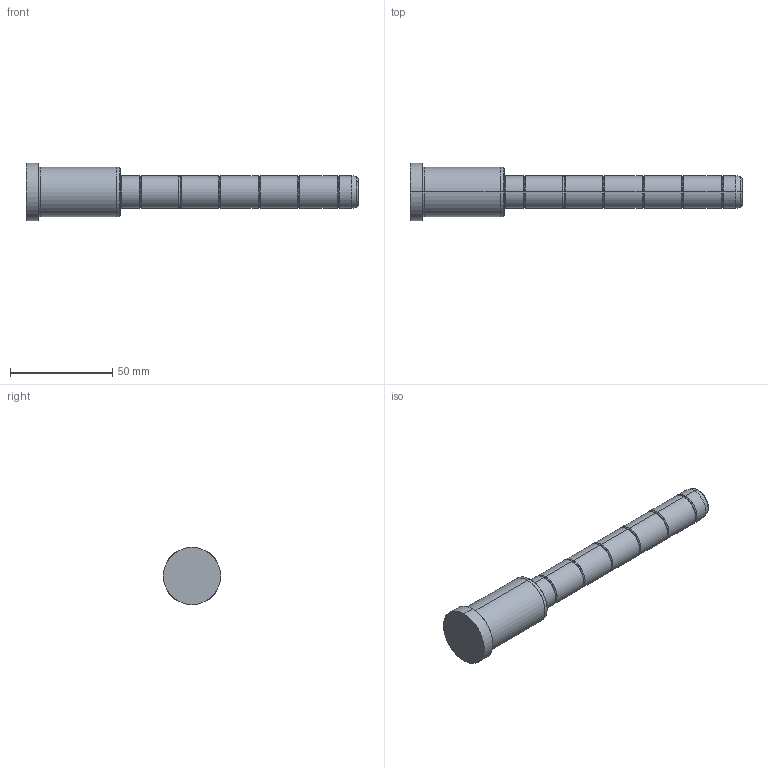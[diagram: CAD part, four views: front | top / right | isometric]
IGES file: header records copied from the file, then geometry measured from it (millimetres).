
Start section: SolidWorks IGES file using analytic representation for surfaces
Global section: file name: C:\Documents and Settings\kalite-mail\Desktop\IGS\D02\16\D02 - 16x46x116.IGS; native system: SolidWorks 2008; preprocessor: SolidWorks 2008; author: kalite-mail; date: 080616.143421; units: millimetre
Bounding box: 162 x 28 x 28 mm (x, y, z)
Surface area: 10678.7 mm2 (no closed solid volume)
Topology: 0 solids, 0 shells, 60 faces, 600 edges, 600 vertices
Faces by surface type: bspline 34, revolution 26
